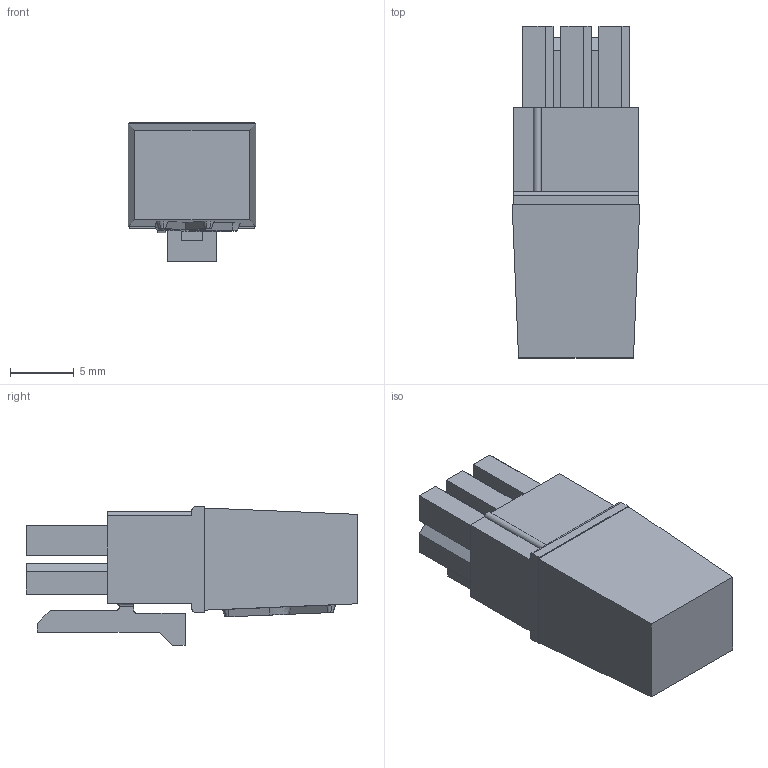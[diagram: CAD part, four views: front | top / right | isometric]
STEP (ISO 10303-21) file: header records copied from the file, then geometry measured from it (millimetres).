
FILE_DESCRIPTION(/* description */ (''),/* implementation_level */ '2;1');
FILE_NAME(/* name */ 'C:/Users/Justinas/Desktop/CNT01 v5.step',/* time_stamp */ '2022-01-20T12:22:40+02:00',/* author */ (''),/* organization */ (''),/* preprocessor_version */ 'ST-DEVELOPER v18.1',/* originating_system */ 'Autodesk Translation Framework v10.10.0.1391',/* authorisation */ '');
FILE_SCHEMA (('AUTOMOTIVE_DESIGN { 1 0 10303 214 3 1 1 }'));
Length unit declared in the file: millimetre
Products named in the file (1): CNT01
Bounding box: 10 x 25.98 x 10.85 mm (x, y, z)
Volume: 1493.5 mm3; surface area: 1740.6 mm2
Topology: 2 solids, 2 shells, 297 faces, 745 edges, 467 vertices
Faces by surface type: plane 173, bspline 69, cylinder 41, sphere 10, torus 2, cone 2
Entity records: 10025 total; most frequent: CARTESIAN_POINT 3275, ORIENTED_EDGE 1490, DIRECTION 1195, EDGE_CURVE 745, LINE 519, VECTOR 519, VERTEX_POINT 467, AXIS2_PLACEMENT_3D 338
